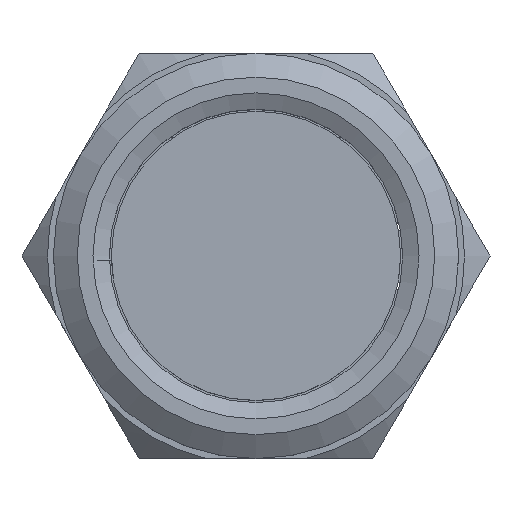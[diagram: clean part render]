
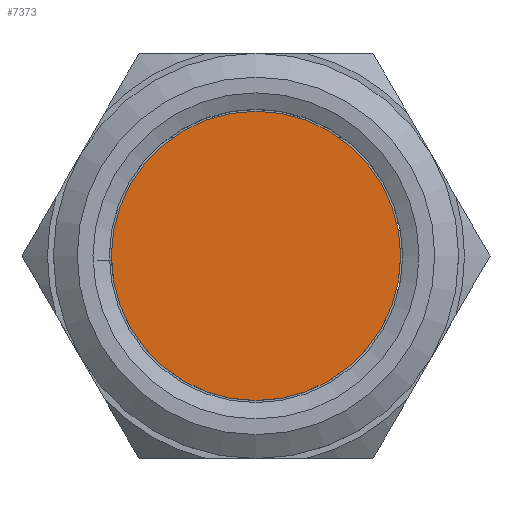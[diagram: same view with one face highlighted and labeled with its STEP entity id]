
A CAD part, top view. The second image highlights one B-rep face of the part: STEP entity #7373.
In plain terms, the highlighted planar face has unit normal (0, 0, 1).
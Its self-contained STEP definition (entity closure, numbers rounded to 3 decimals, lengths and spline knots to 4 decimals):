
#1197=CIRCLE('',#32194,8.85);
#6390=PLANE('',#32358);
#7373=ADVANCED_FACE('',(#8784),#6390,.T.);
#8784=FACE_OUTER_BOUND('',#10077,.T.);
#10077=EDGE_LOOP('',(#17939));
#17939=ORIENTED_EDGE('',*,*,#27869,.F.);
#25253=VERTEX_POINT('',#41269);
#27869=EDGE_CURVE('',#25253,#25253,#1197,.T.);
#32194=AXIS2_PLACEMENT_3D('',#41268,#34285,#34286);
#32358=AXIS2_PLACEMENT_3D('',#45090,#34694,#34695);
#34285=DIRECTION('',(0.,0.,-1.));
#34286=DIRECTION('',(1.,0.,0.));
#34694=DIRECTION('',(0.,0.,1.));
#34695=DIRECTION('',(0.,-1.,0.));
#41268=CARTESIAN_POINT('',(-377.9014,189.6583,16.15));
#41269=CARTESIAN_POINT('',(-369.0514,189.6583,16.15));
#45090=CARTESIAN_POINT('',(-369.0764,189.6583,16.15));
